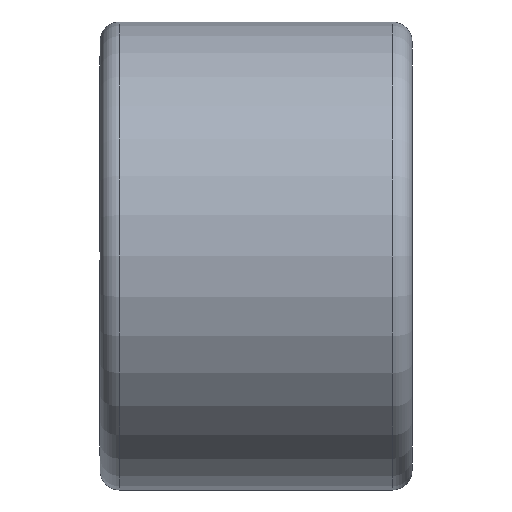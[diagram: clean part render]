
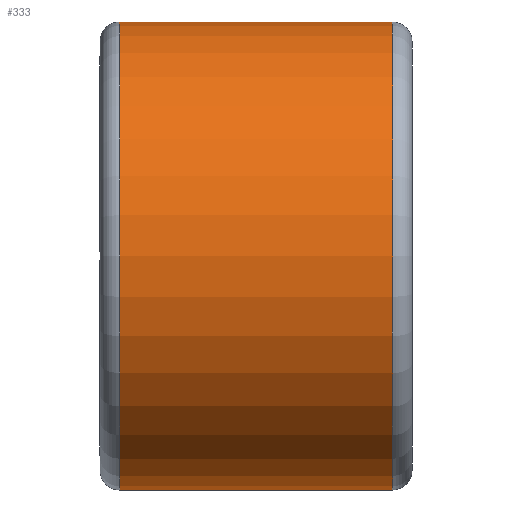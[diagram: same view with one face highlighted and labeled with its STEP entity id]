
A CAD part, front view. The second image highlights one B-rep face of the part: STEP entity #333.
In plain terms, the highlighted cylindrical face has radius 12 mm (diameter 24 mm), a full revolution.
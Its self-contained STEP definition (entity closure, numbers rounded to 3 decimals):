
#161=CYLINDRICAL_SURFACE('',#358,12.);
#169=FACE_BOUND('',#207,.T.);
#186=FACE_OUTER_BOUND('',#206,.T.);
#206=EDGE_LOOP('',(#296));
#207=EDGE_LOOP('',(#297));
#241=CIRCLE('',#357,12.);
#242=CIRCLE('',#359,12.);
#259=VERTEX_POINT('',#577);
#260=VERTEX_POINT('',#580);
#277=EDGE_CURVE('',#259,#259,#241,.T.);
#278=EDGE_CURVE('',#260,#260,#242,.T.);
#296=ORIENTED_EDGE('',*,*,#278,.F.);
#297=ORIENTED_EDGE('',*,*,#277,.F.);
#333=ADVANCED_FACE('',(#186,#169),#161,.T.);
#357=AXIS2_PLACEMENT_3D('',#578,#433,#434);
#358=AXIS2_PLACEMENT_3D('',#579,#435,#436);
#359=AXIS2_PLACEMENT_3D('',#581,#437,#438);
#433=DIRECTION('center_axis',(-1.,0.,0.));
#434=DIRECTION('ref_axis',(0.,-1.,0.));
#435=DIRECTION('center_axis',(1.,0.,0.));
#436=DIRECTION('ref_axis',(0.,1.,0.));
#437=DIRECTION('center_axis',(1.,0.,0.));
#438=DIRECTION('ref_axis',(0.,-1.,0.));
#577=CARTESIAN_POINT('',(-7.,12.,0.));
#578=CARTESIAN_POINT('Origin',(-7.,0.,0.));
#579=CARTESIAN_POINT('Origin',(0.,0.,
0.));
#580=CARTESIAN_POINT('',(7.,12.,0.));
#581=CARTESIAN_POINT('Origin',(7.,0.,0.));
